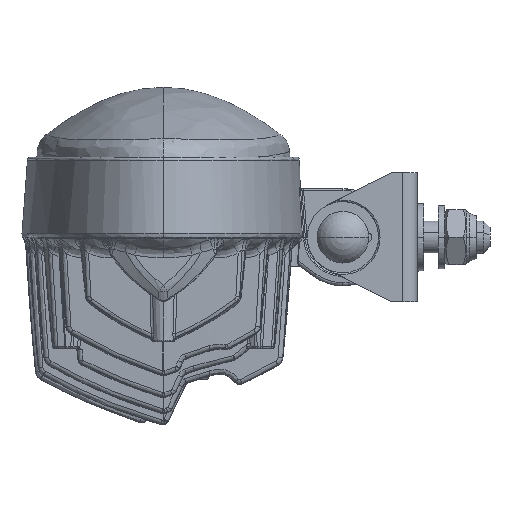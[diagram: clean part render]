
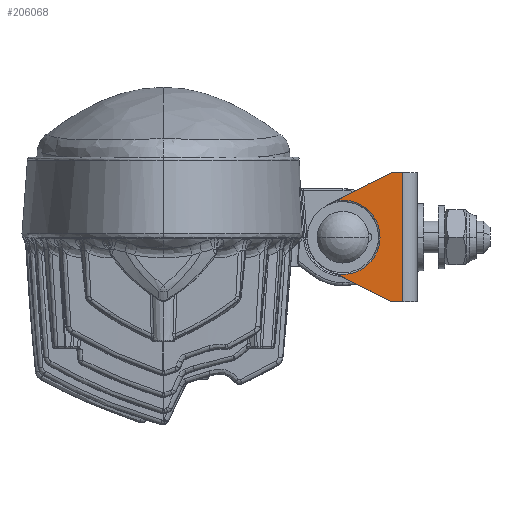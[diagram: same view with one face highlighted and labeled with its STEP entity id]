
A CAD part, left-side view. The second image highlights one B-rep face of the part: STEP entity #206068.
In plain terms, the highlighted planar face has unit normal (-1, 0, 0).
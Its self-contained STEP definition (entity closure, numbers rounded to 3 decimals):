
#206045=AXIS2_PLACEMENT_3D('Plane Axis2P3D',#206042,#206043,#206044) ;
#206049=AXIS2_PLACEMENT_3D('Circle Axis2P3D',#206047,#206048,$) ;
#206056=AXIS2_PLACEMENT_3D('Circle Axis2P3D',#206054,#206055,$) ;
#194634=CARTESIAN_POINT('Line Origine',(-21.25,-72.278,62.623)) ;
#194638=CARTESIAN_POINT('Vertex',(-21.25,-74.028,62.623)) ;
#194640=CARTESIAN_POINT('Vertex',(-21.25,-70.528,62.623)) ;
#194741=CARTESIAN_POINT('Vertex',(-21.25,-70.528,22.623)) ;
#194781=CARTESIAN_POINT('Vertex',(-21.25,-74.028,22.623)) ;
#194784=CARTESIAN_POINT('Line Origine',(-21.25,-72.278,22.623)) ;
#195579=CARTESIAN_POINT('Line Origine',(-21.25,-74.028,42.623)) ;
#205973=CARTESIAN_POINT('Line Origine',(-21.25,-62.023,58.284)) ;
#205977=CARTESIAN_POINT('Vertex',(-21.25,-53.517,53.946)) ;
#206010=CARTESIAN_POINT('Line Origine',(-21.25,-62.023,26.962)) ;
#206014=CARTESIAN_POINT('Vertex',(-21.25,-53.517,31.3)) ;
#206042=CARTESIAN_POINT('Axis2P3D Location',(-21.25,-74.028,42.623)) ;
#206047=CARTESIAN_POINT('Axis2P3D Location',(-21.25,-55.528,42.623)) ;
#206051=CARTESIAN_POINT('Vertex',(-21.25,-65.62,48.136)) ;
#206054=CARTESIAN_POINT('Axis2P3D Location',(-21.25,-55.528,42.623)) ;
#194635=DIRECTION('Vector Direction',(0.,1.,0.)) ;
#194785=DIRECTION('Vector Direction',(0.,1.,0.)) ;
#195580=DIRECTION('Vector Direction',(0.,0.,-1.)) ;
#205974=DIRECTION('Vector Direction',(0.,0.891,-0.454)) ;
#206011=DIRECTION('Vector Direction',(0.,0.891,0.454)) ;
#206043=DIRECTION('Axis2P3D Direction',(-1.,0.,0.)) ;
#206044=DIRECTION('Axis2P3D XDirection',(0.,1.,0.)) ;
#206048=DIRECTION('Axis2P3D Direction',(-1.,0.,0.)) ;
#206055=DIRECTION('Axis2P3D Direction',(-1.,0.,0.)) ;
#194636=VECTOR('Line Direction',#194635,1.) ;
#194786=VECTOR('Line Direction',#194785,1.) ;
#195581=VECTOR('Line Direction',#195580,1.) ;
#205975=VECTOR('Line Direction',#205974,1.) ;
#206012=VECTOR('Line Direction',#206011,1.) ;
#206060=ORIENTED_EDGE('',*,*,#206016,.F.) ;
#206061=ORIENTED_EDGE('',*,*,#194788,.F.) ;
#206062=ORIENTED_EDGE('',*,*,#195583,.F.) ;
#206063=ORIENTED_EDGE('',*,*,#194642,.T.) ;
#206064=ORIENTED_EDGE('',*,*,#205979,.T.) ;
#206065=ORIENTED_EDGE('',*,*,#206053,.F.) ;
#206066=ORIENTED_EDGE('',*,*,#206058,.F.) ;
#206068=ADVANCED_FACE('Braket',(#206067),#206046,.T.) ;
#206050=CIRCLE('generated circle',#206049,11.5) ;
#206057=CIRCLE('generated circle',#206056,11.5) ;
#194642=EDGE_CURVE('',#194639,#194641,#194637,.T.) ;
#194788=EDGE_CURVE('',#194782,#194742,#194787,.T.) ;
#195583=EDGE_CURVE('',#194639,#194782,#195582,.T.) ;
#205979=EDGE_CURVE('',#194641,#205978,#205976,.T.) ;
#206016=EDGE_CURVE('',#194742,#206015,#206013,.T.) ;
#206053=EDGE_CURVE('',#206052,#205978,#206050,.T.) ;
#206058=EDGE_CURVE('',#206015,#206052,#206057,.T.) ;
#206059=EDGE_LOOP('',(#206060,#206061,#206062,#206063,#206064,#206065,#206066)) ;
#206067=FACE_OUTER_BOUND('',#206059,.T.) ;
#194637=LINE('Line',#194634,#194636) ;
#194787=LINE('Line',#194784,#194786) ;
#195582=LINE('Line',#195579,#195581) ;
#205976=LINE('Line',#205973,#205975) ;
#206013=LINE('Line',#206010,#206012) ;
#206046=PLANE('',#206045) ;
#194639=VERTEX_POINT('',#194638) ;
#194641=VERTEX_POINT('',#194640) ;
#194742=VERTEX_POINT('',#194741) ;
#194782=VERTEX_POINT('',#194781) ;
#205978=VERTEX_POINT('',#205977) ;
#206015=VERTEX_POINT('',#206014) ;
#206052=VERTEX_POINT('',#206051) ;
